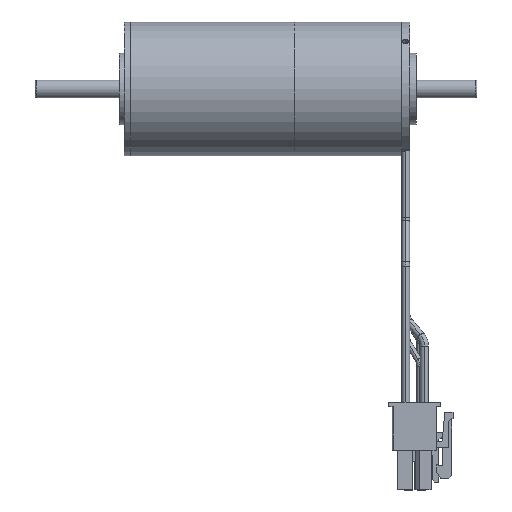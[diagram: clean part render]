
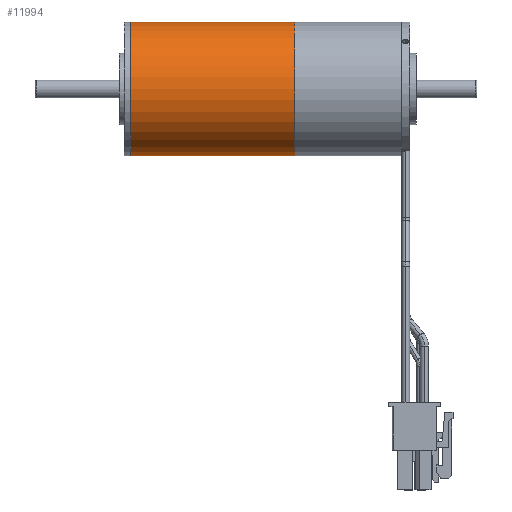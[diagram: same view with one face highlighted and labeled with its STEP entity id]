
A CAD part, top view. The second image highlights one B-rep face of the part: STEP entity #11994.
In plain terms, the highlighted cylindrical face has radius 15 mm (diameter 30 mm), a partial arc.
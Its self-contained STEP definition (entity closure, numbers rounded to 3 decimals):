
#2114=DIRECTION('',(-1.,0.,0.));
#2115=VECTOR('',#2114,36.782);
#2116=CARTESIAN_POINT('',(38.191,15.,0.));
#2117=LINE('',#2116,#2115);
#2121=CARTESIAN_POINT('',(38.191,0.,0.));
#2122=DIRECTION('',(1.,0.,0.));
#2123=DIRECTION('',(0.,1.,0.));
#2124=AXIS2_PLACEMENT_3D('',#2121,#2122,#2123);
#2129=DIRECTION('',(-1.,0.,0.));
#2130=VECTOR('',#2129,36.782);
#2131=CARTESIAN_POINT('',(38.191,-15.,0.));
#2132=LINE('',#2131,#2130);
#2159=CARTESIAN_POINT('',(1.409,0.,0.));
#2160=DIRECTION('',(1.,0.,0.));
#2161=DIRECTION('',(0.,1.,0.));
#2162=AXIS2_PLACEMENT_3D('',#2159,#2160,#2161);
#9153=CARTESIAN_POINT('',(38.191,15.,0.));
#9154=CARTESIAN_POINT('',(1.409,15.,0.));
#9155=VERTEX_POINT('',#9153);
#9156=VERTEX_POINT('',#9154);
#9169=CARTESIAN_POINT('',(38.191,-15.,0.));
#9170=CARTESIAN_POINT('',(1.409,-15.,0.));
#9171=VERTEX_POINT('',#9169);
#9172=VERTEX_POINT('',#9170);
#11980=CARTESIAN_POINT('',(83.95,0.,0.));
#11981=DIRECTION('',(-1.,0.,0.));
#11982=DIRECTION('',(0.,1.,0.));
#11983=AXIS2_PLACEMENT_3D('',#11980,#11981,#11982);
#11984=CYLINDRICAL_SURFACE('',#11983,15.);
#11986=ORIENTED_EDGE('',*,*,#11985,.F.);
#11987=ORIENTED_EDGE('',*,*,#11968,.T.);
#11989=ORIENTED_EDGE('',*,*,#11988,.T.);
#11991=ORIENTED_EDGE('',*,*,#11990,.F.);
#11992=EDGE_LOOP('',(#11986,#11987,#11989,#11991));
#11993=FACE_OUTER_BOUND('',#11992,.F.);
#11994=ADVANCED_FACE('',(#11993),#11984,.T.);
#2125=CIRCLE('',#2124,15.);
#2163=CIRCLE('',#2162,15.);
#11968=EDGE_CURVE('',#9155,#9171,#2125,.T.);
#11985=EDGE_CURVE('',#9155,#9156,#2117,.T.);
#11988=EDGE_CURVE('',#9171,#9172,#2132,.T.);
#11990=EDGE_CURVE('',#9156,#9172,#2163,.T.);
